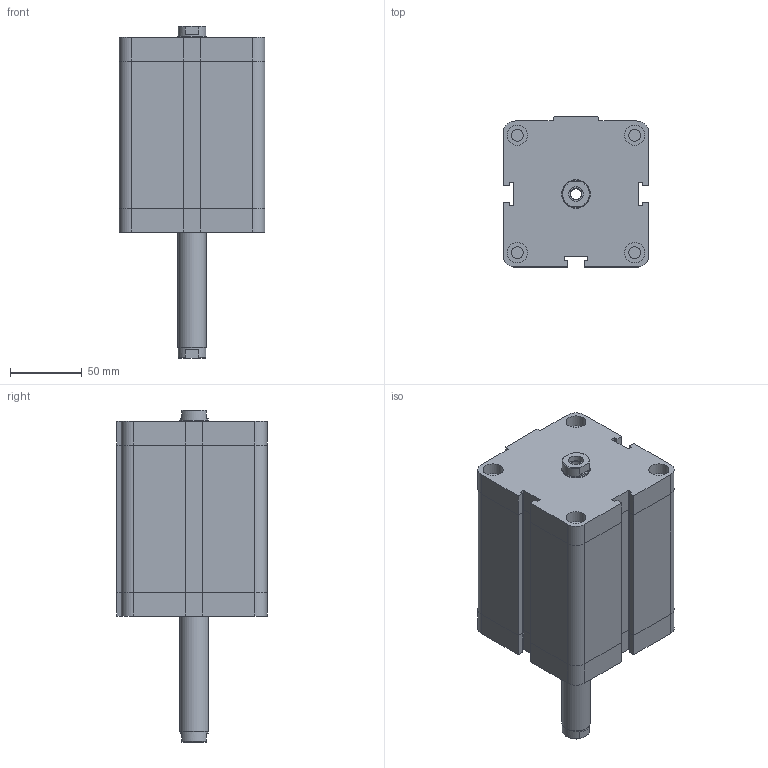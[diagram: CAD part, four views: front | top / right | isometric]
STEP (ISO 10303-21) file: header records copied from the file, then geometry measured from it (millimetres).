
FILE_DESCRIPTION((''),'2;1');
FILE_NAME('I:\Area Tecnica\Disegni\VARIE-3D\Componenti\EUROPE\15##_###_####_06_#\1581_80_0080_06_1.iam.stp','2009-04-20T15:12:30',(''),(''),'Autodesk Inventor 2009','Autodesk Inventor 2009','');
FILE_SCHEMA(('AUTOMOTIVE_DESIGN { 1 0 10303 214 1 1 1 1 }'));
Length unit declared in the file: millimetre
Products named in the file (3): 1581_80_0080_06_1; 1581_80_0080_03_1_C; 1561_80_0080_06_1_S
Assembly tree (2 placements, depth 2):
  1581_80_0080_06_1
    1581_80_0080_03_1_C
    1561_80_0080_06_1_S
Bounding box: 102 x 105 x 232 mm (x, y, z)
Volume: 1377073.5 mm3; surface area: 119364 mm2
Topology: 2 solids, 2 shells, 175 faces, 382 edges, 233 vertices
Faces by surface type: plane 114, bspline 30, cylinder 25, cone 6
Full cylindrical faces by diameter (mm): 8.376 x5, 10.3 x1, 14 x4, 19.5 x2, 20 x1
Entity records: 4805 total; most frequent: CARTESIAN_POINT 1042, DIRECTION 712, ORIENTED_EDGE 680, EDGE_CURVE 340, VECTOR 252, LINE 252, AXIS2_PLACEMENT_3D 230, EDGE_LOOP 230
